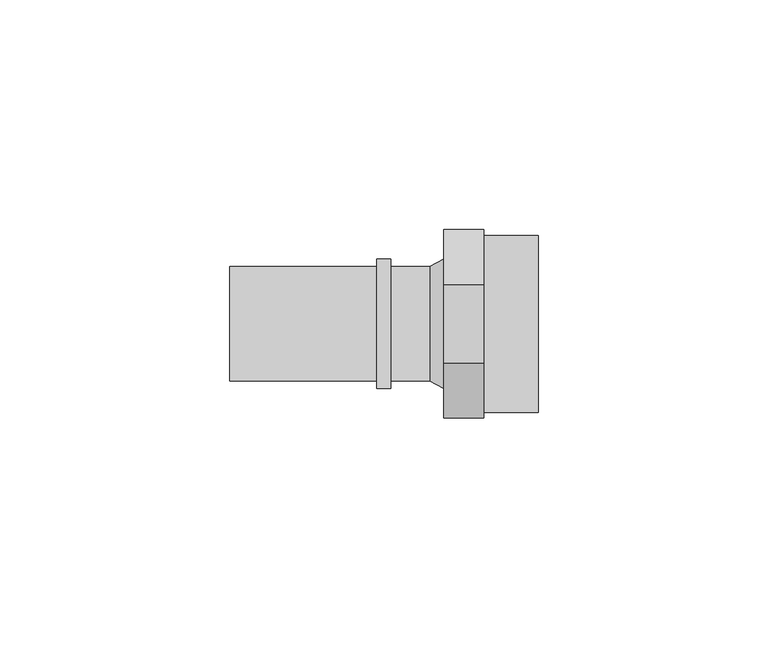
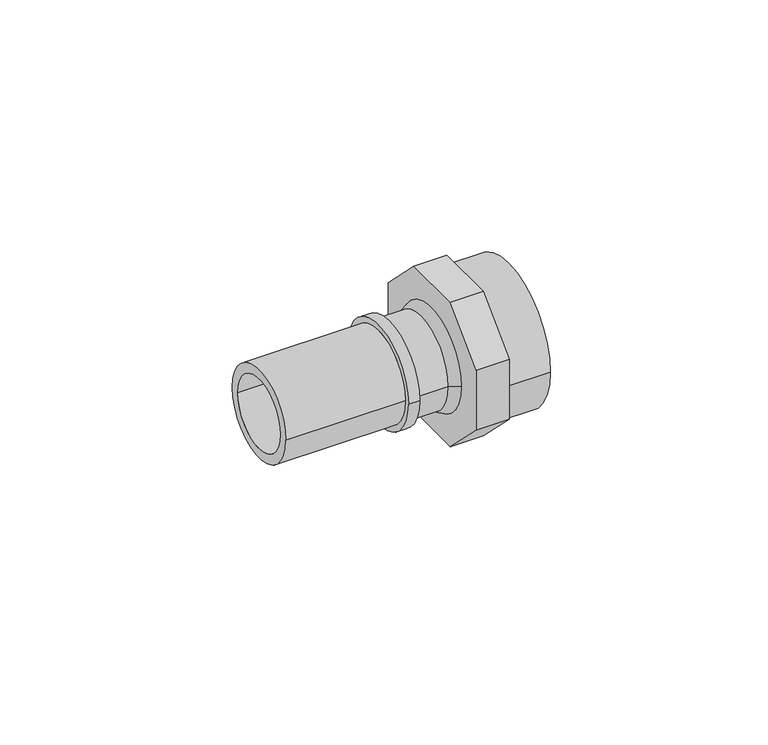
"""IFC4 building model written with IfcOpenShell, lengths in millimetres: pipe fitting geometry, FASTLOC_Adapter_LX, with internal thread : FSL A internal PL."""

from ifc_helpers import new_model, si_unit, point, frame, origin, origin_2d, place, context, project, spatial, polyline, circle_curve, trimmed, segment, composite_curve, outline, extrude, source, transform, mapped, element, save
from ifc_brep_helpers import plane_surface, cylinder_surface, revolved_surface, advanced_brep


def pipe_fitting_08194d44(model_context):
    return source(origin(), model_context, "Body", "SolidModel", [
        extrude(outline(composite_curve([segment(trimmed(circle_curve(origin_2d(), 19.25), [point((-19.25, 0.0))], [point((19.25, 0.0))], False, "CARTESIAN"), True, "CONTINUOUS"), segment(trimmed(circle_curve(origin_2d(), 19.25), [point((19.25, 0.0))], [point((-19.25, 0.0))], False, "CARTESIAN"), True, "CONTINUOUS")], self_intersect=False), holes=[composite_curve([segment(trimmed(circle_curve(origin_2d(), 15.2), [point((-15.2, 0.0))], [point((15.2, 0.0))], True, "CARTESIAN"), True, "CONTINUOUS"), segment(trimmed(circle_curve(origin_2d(), 15.2), [point((15.2, 0.0))], [point((-15.2, 0.0))], True, "CARTESIAN"), True, "CONTINUOUS")], self_intersect=False)]), frame((8.8, 0.0, 0.0), z_axis=(1.0, 0.0, 0.0), x_axis=(0.0, 1.0, 0.0)), (0.0, 0.0, 1.0), 11.8),
        extrude(outline(polyline([(-8.491378, -20.5), (-20.5, -8.491378), (-20.5, 8.491378), (-8.491378, 20.5), (8.491378, 20.5), (20.5, 8.491378), (20.5, -8.491378), (8.491378, -20.5), (-8.491378, -20.5)]), holes=[composite_curve([segment(trimmed(circle_curve(origin_2d(), 9.85), [point((-9.85, 0.0))], [point((9.85, 0.0))], True, "CARTESIAN"), True, "CONTINUOUS"), segment(trimmed(circle_curve(origin_2d(), 9.85), [point((9.85, 0.0))], [point((-9.85, 0.0))], True, "CARTESIAN"), True, "CONTINUOUS")], self_intersect=False)]), frame((0.0, 0.0, 0.0), z_axis=(1.0, 0.0, 0.0), x_axis=(0.0, 1.0, 0.0)), (0.0, 0.0, 1.0), 8.8),
        advanced_brep(
        [(-14.5, 12.5, 0.0), (-14.5, -12.5, 0.0), (-46.5, -12.5, 0.0), (-46.5, 12.5, 0.0), (-11.5, 14.1, 0.0), (-11.5, -14.1, 0.0), (-14.5, -14.1, 0.0), (-14.5, 14.1, 0.0), (-3.0, 12.5, 0.0), (-3.0, -12.5, 0.0), (-11.5, -12.5, 0.0), (-11.5, 12.5, 0.0), (0.0, 14.1, 0.0), (0.0, -14.1, 0.0), (-46.5, 9.85, 0.0), (-46.5, -9.85, 0.0), (0.0, -9.85, 0.0), (0.0, 9.85, 0.0)],
        [
            (0, 1, circle_curve(frame((-14.5, 0.0, 0.0), z_axis=(-1.0, 0.0, 0.0), x_axis=(0.0, -1.0, 0.0)), 12.5)),
            (1, 2),
            (2, 3, circle_curve(frame((-46.5, 0.0, 0.0), z_axis=(1.0, 0.0, 0.0), x_axis=(0.0, -1.0, 0.0)), 12.5)),
            (3, 0),
            (4, 5, circle_curve(frame((-11.5, 0.0, 0.0), z_axis=(-1.0, 0.0, 0.0), x_axis=(0.0, -1.0, 0.0)), 14.1)),
            (5, 6),
            (6, 7, circle_curve(frame((-14.5, 0.0, 0.0), z_axis=(1.0, 0.0, 0.0), x_axis=(0.0, -1.0, 0.0)), 14.1)),
            (7, 4),
            (8, 9, circle_curve(frame((-3.0, 0.0, 0.0), z_axis=(-1.0, 0.0, 0.0), x_axis=(0.0, -1.0, 0.0)), 12.5)),
            (9, 10),
            (10, 11, circle_curve(frame((-11.5, 0.0, 0.0), z_axis=(1.0, 0.0, 0.0), x_axis=(0.0, -1.0, 0.0)), 12.5)),
            (11, 8),
            (12, 13, circle_curve(frame((0.0, 0.0, 0.0), z_axis=(-1.0, 0.0, 0.0), x_axis=(0.0, -1.0, 0.0)), 14.1)),
            (13, 9),
            (8, 12),
            (14, 15, circle_curve(frame((-46.5, 0.0, 0.0), z_axis=(-1.0, 0.0, 0.0), x_axis=(0.0, -1.0, 0.0)), 9.85)),
            (15, 16),
            (16, 17, circle_curve(frame((0.0, 0.0, 0.0), z_axis=(1.0, 0.0, 0.0), x_axis=(0.0, -1.0, 0.0)), 9.85)),
            (17, 14),
            (2, 3, circle_curve(frame((-46.5, 0.0, 0.0), z_axis=(-1.0, 0.0, 0.0), x_axis=(0.0, 1.0, 0.0)), 12.5)),
            (14, 15, circle_curve(frame((-46.5, 0.0, 0.0), z_axis=(1.0, 0.0, 0.0), x_axis=(0.0, 1.0, 0.0)), 9.85)),
            (1, 0, circle_curve(frame((-14.5, 0.0, 0.0), z_axis=(-1.0, 0.0, 0.0), x_axis=(0.0, 1.0, 0.0)), 12.5)),
            (6, 7, circle_curve(frame((-14.5, 0.0, 0.0), z_axis=(-1.0, 0.0, 0.0), x_axis=(0.0, 1.0, 0.0)), 14.1)),
            (5, 4, circle_curve(frame((-11.5, 0.0, 0.0), z_axis=(-1.0, 0.0, 0.0), x_axis=(0.0, 1.0, 0.0)), 14.1)),
            (10, 11, circle_curve(frame((-11.5, 0.0, 0.0), z_axis=(-1.0, 0.0, 0.0), x_axis=(0.0, 1.0, 0.0)), 12.5)),
            (9, 8, circle_curve(frame((-3.0, 0.0, 0.0), z_axis=(-1.0, 0.0, 0.0), x_axis=(0.0, 1.0, 0.0)), 12.5)),
            (13, 12, circle_curve(frame((0.0, 0.0, 0.0), z_axis=(-1.0, 0.0, 0.0), x_axis=(0.0, 1.0, 0.0)), 14.1)),
            (16, 17, circle_curve(frame((0.0, 0.0, 0.0), z_axis=(-1.0, 0.0, 0.0), x_axis=(0.0, 1.0, 0.0)), 9.85)),
        ],
        [
            cylinder_surface(frame((0.0, 0.0, 0.0), z_axis=(1.0, 0.0, 0.0), x_axis=(0.0, -1.0, 0.0)), 12.5),
            cylinder_surface(frame((0.0, 0.0, 0.0), z_axis=(1.0, 0.0, 0.0), x_axis=(0.0, -1.0, 0.0)), 14.1),
            revolved_surface(polyline([(-3.0, -12.5, 0.0), (0.0, -14.1, 0.0)]), (0.0, 0.0, 0.0), (1.0, 0.0, 0.0)),
            revolved_surface(polyline([(0.0, -9.85, 0.0), (-46.5, -9.85, 0.0)]), (0.0, 0.0, 0.0), (1.0, 0.0, 0.0)),
            plane_surface(frame((-46.5, 0.0, 0.0), z_axis=(-1.0, 0.0, 0.0), x_axis=(0.0, 1.0, 0.0))),
            cylinder_surface(frame((0.0, 0.0, 0.0), z_axis=(1.0, 0.0, 0.0), x_axis=(0.0, 1.0, 0.0)), 12.5),
            plane_surface(frame((-14.5, 0.0, 0.0), z_axis=(-1.0, 0.0, 0.0), x_axis=(0.0, 1.0, 0.0))),
            cylinder_surface(frame((0.0, 0.0, 0.0), z_axis=(1.0, 0.0, 0.0), x_axis=(0.0, 1.0, 0.0)), 14.1),
            plane_surface(frame((-11.5, 0.0, 0.0), z_axis=(1.0, 0.0, 0.0), x_axis=(0.0, 1.0, 0.0))),
            revolved_surface(polyline([(-3.0, 12.5, 0.0), (0.0, 14.1, 0.0)]), (0.0, 0.0, 0.0), (1.0, 0.0, 0.0)),
            plane_surface(frame((0.0, 0.0, 0.0), z_axis=(1.0, 0.0, 0.0), x_axis=(0.0, 1.0, 0.0))),
            revolved_surface(polyline([(0.0, 9.85, 0.0), (-46.5, 9.85, 0.0)]), (0.0, 0.0, 0.0), (1.0, 0.0, 0.0)),
        ],
        [
            (0, [[1, 2, 3, 4]]),
            (1, [[5, 6, 7, 8]]),
            (0, [[9, 10, 11, 12]]),
            (2, [[13, 14, -9, 15]]),
            (3, [[16, 17, 18, 19]]),
            (4, [[20, -3], [21, -16]]),
            (5, [[22, -4, -20, -2]]),
            (6, [[23, -7], [-22, -1]]),
            (7, [[24, -8, -23, -6]]),
            (8, [[-24, -5], [25, -11]]),
            (5, [[26, -12, -25, -10]]),
            (9, [[27, -15, -26, -14]]),
            (10, [[-27, -13], [28, -18]]),
            (11, [[-21, -19, -28, -17]]),
        ],
    ),
    ])


if __name__ == "__main__":
    model = new_model("IFC4")
    model_context = context("Model", 3, world=origin())
    ifc_project = project(units=[si_unit("LENGTHUNIT", "METRE", prefix="MILLI")], contexts=[model_context])
    site = spatial("IfcSite", under=ifc_project)
    building = spatial("IfcBuilding", under=site)
    placement = place(None, origin())
    pipe_fitting_shape = pipe_fitting_08194d44(model_context)
    element("IfcPipeFitting", 1, ObjectType="FASTLOC_Adapter_LX, with internal thread : FSL A internal PL", at=placement, inside=building, context=model_context, shape_type="MappedRepresentation", body=[
        mapped(pipe_fitting_shape, transform((0.0, 0.0, 0.0), x_axis=(1.0, 0.0, 0.0), y_axis=(0.0, 1.0, 0.0), z_axis=(0.0, 0.0, 1.0))),
    ])
    save(model, "model.ifc")
